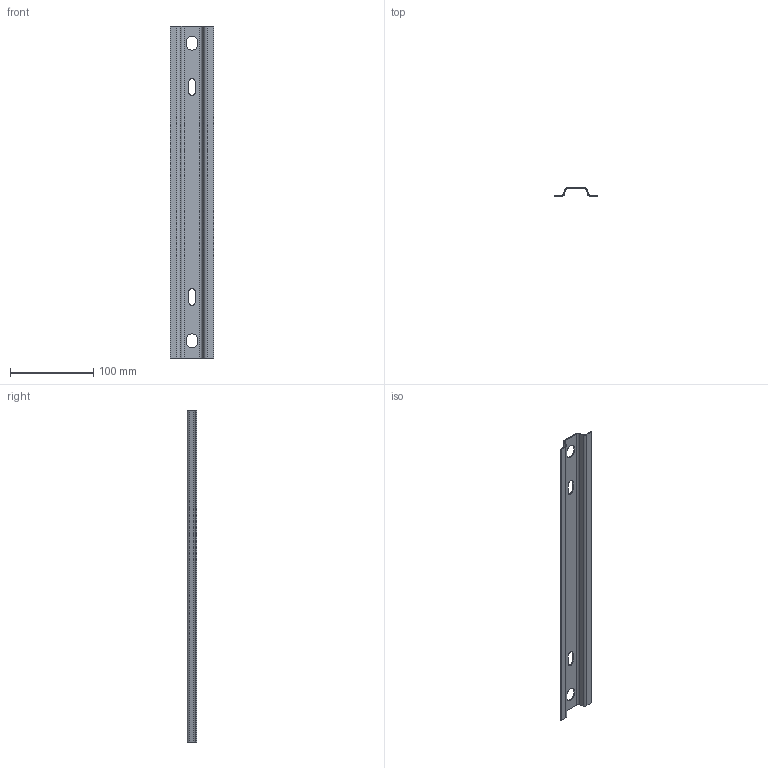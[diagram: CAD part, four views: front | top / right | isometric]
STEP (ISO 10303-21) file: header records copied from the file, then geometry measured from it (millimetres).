
FILE_DESCRIPTION (( 'STEP AP203' ), '1' );
FILE_NAME ('TB 300.STEP', '2024-09-05T04:23:58', ( '' ), ( '' ), 'SwSTEP 2.0', 'SolidWorks 2023', '' );
FILE_SCHEMA (( 'CONFIG_CONTROL_DESIGN' ));
Length unit declared in the file: millimetre
Products named in the file (1): TB 300
Bounding box: 52 x 11 x 400 mm (x, y, z)
Volume: 29530.8 mm3; surface area: 50565.3 mm2
Topology: 1 solids, 1 shells, 54 faces, 124 edges, 72 vertices
Faces by surface type: plane 38, cylinder 16
Entity records: 1577 total; most frequent: DIRECTION 266, CARTESIAN_POINT 251, ORIENTED_EDGE 248, EDGE_CURVE 124, VECTOR 92, LINE 92, AXIS2_PLACEMENT_3D 87, VERTEX_POINT 72
